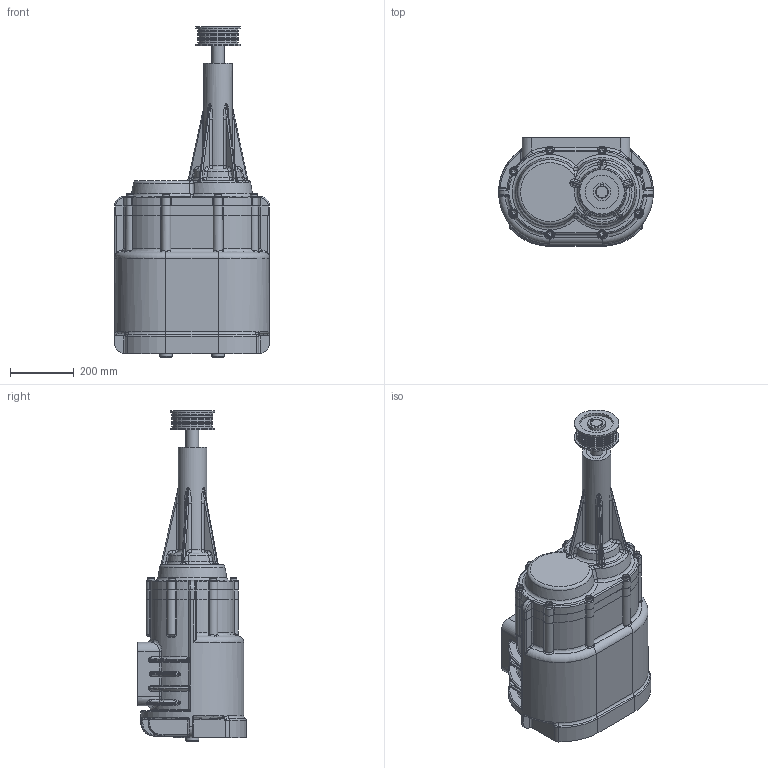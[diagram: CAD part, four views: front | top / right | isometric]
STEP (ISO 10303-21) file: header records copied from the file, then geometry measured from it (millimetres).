
FILE_DESCRIPTION((''),'2;1');
FILE_NAME('C:\Users\Junior\Desktop\COMPRESSOR DE PARAFUSOS SOLIDFACE.stp','2012-03-21T11:59:48',('Junior'),(''),'Autodesk Inventor 2010','Autodesk Inventor 2010','');
FILE_SCHEMA(('AUTOMOTIVE_DESIGN { 1 0 10303 214 1 1 1 1 }'));
Length unit declared in the file: metre
Products named in the file (13): COMPRESSOR DE PARAFUSOS SOLIDFACE; CARCAÇA; ROTOR; ROTOR SECUNDÁRIO; BUCHA; MANCAL; BUCHA DO MANCAL; ENGRENAGEM; MANCAL POSTERIOR; BUCHA FRONTAL; POLIA; CHAVETA; PARAFUSO DIN 912-M14X140
Assembly tree (25 placements, depth 2):
  COMPRESSOR DE PARAFUSOS SOLIDFACE
    CARCAÇA
    ROTOR
    ROTOR SECUNDÁRIO
    BUCHA  x2
    MANCAL
    BUCHA DO MANCAL  x2
    ENGRENAGEM  x2
    MANCAL POSTERIOR
    BUCHA FRONTAL  x2
    POLIA
    CHAVETA  x3
    PARAFUSO DIN 912-M14X140  x8
Bounding box: 488 x 342 x 1040 mm (x, y, z)
Volume: 38688913.6 mm3; surface area: 4061973.7 mm2
Topology: 25 solids, 25 shells, 1673 faces, 4077 edges, 2453 vertices
Faces by surface type: cylinder 716, plane 361, bspline 271, torus 221, cone 74, sphere 30
Full cylindrical faces by diameter (mm): 14 x42, 21 x8, 24 x8, 40 x10, 50 x8, 56 x2, 58 x8, 64 x3, 78 x8, 84 x2, 90 x1, 106 x2, 122 x5, 128 x6, 140 x2
Entity records: 74819 total; most frequent: CARTESIAN_POINT 42069, DIRECTION 6800, ORIENTED_EDGE 6342, EDGE_CURVE 3171, AXIS2_PLACEMENT_3D 2941, VERTEX_POINT 1977, CIRCLE 1718, EDGE_LOOP 1638
